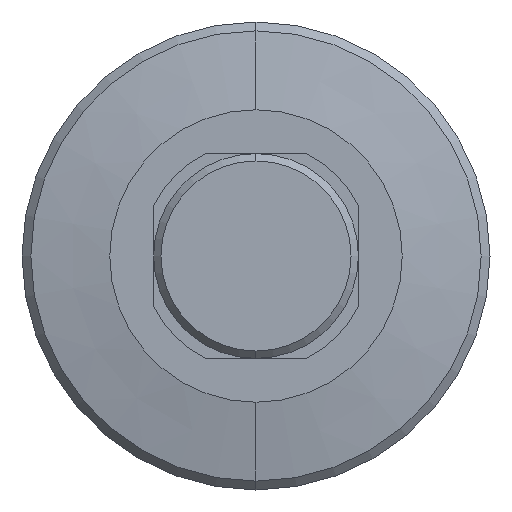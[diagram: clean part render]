
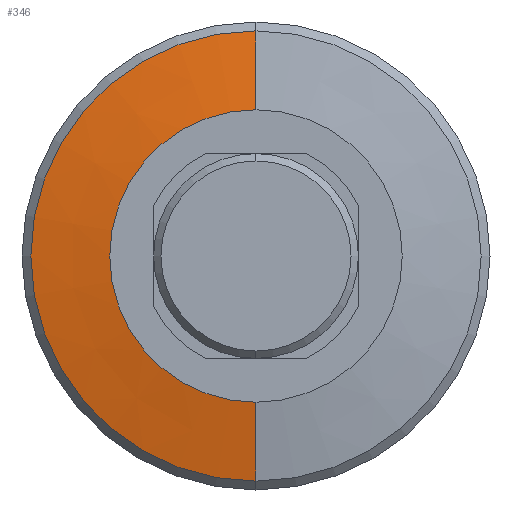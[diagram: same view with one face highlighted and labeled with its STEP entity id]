
A CAD part, left-side view. The second image highlights one B-rep face of the part: STEP entity #346.
In plain terms, the highlighted conical face has half-angle 80 degrees and reference radius 16 mm.
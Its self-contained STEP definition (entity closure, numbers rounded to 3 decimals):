
#6 = EDGE_CURVE ( 'NONE', #269, #641, #218, .T. ) ;
#26 = CARTESIAN_POINT ( 'NONE',  ( 30.058, 0., 16. ) ) ;
#44 = EDGE_CURVE ( 'NONE', #99, #521, #186, .T. ) ;
#75 = CARTESIAN_POINT ( 'NONE',  ( 30.058, 0., 0. ) ) ;
#98 = AXIS2_PLACEMENT_3D ( 'NONE', #866, #872, #880 ) ;
#99 = VERTEX_POINT ( 'NONE', #1080 ) ;
#109 = CARTESIAN_POINT ( 'NONE',  ( 29., 0., 0. ) ) ;
#116 = DIRECTION ( 'NONE',  ( -1., 0., 0. ) ) ;
#124 = DIRECTION ( 'NONE',  ( 0., 0., 1. ) ) ;
#186 = CIRCLE ( 'NONE', #98, 15.393 ) ;
#187 = DIRECTION ( 'NONE',  ( 1., 0., 0. ) ) ;
#216 = AXIS2_PLACEMENT_3D ( 'NONE', #75, #187, #1150 ) ;
#218 = CIRCLE ( 'NONE', #1073, 10. ) ;
#240 = CARTESIAN_POINT ( 'NONE',  ( 29., 0., -10. ) ) ;
#269 = VERTEX_POINT ( 'NONE', #727 ) ;
#305 = EDGE_LOOP ( 'NONE', ( #1059, #1320, #315, #981 ) ) ;
#315 = ORIENTED_EDGE ( 'NONE', *, *, #44, .T. ) ;
#336 = CARTESIAN_POINT ( 'NONE',  ( 29.951, 0., -15.393 ) ) ;
#346 = ADVANCED_FACE ( 'NONE', ( #1238 ), #1205, .T. ) ;
#379 = DIRECTION ( 'NONE',  ( 0.174, 0., -0.985 ) ) ;
#392 = VECTOR ( 'NONE', #379, 1000. ) ;
#521 = VERTEX_POINT ( 'NONE', #336 ) ;
#526 = LINE ( 'NONE', #26, #1035 ) ;
#641 = VERTEX_POINT ( 'NONE', #240 ) ;
#677 = EDGE_CURVE ( 'NONE', #269, #99, #526, .T. ) ;
#727 = CARTESIAN_POINT ( 'NONE',  ( 29., 0., 10. ) ) ;
#730 = EDGE_CURVE ( 'NONE', #641, #521, #1004, .T. ) ;
#866 = CARTESIAN_POINT ( 'NONE',  ( 29.951, 0., 0. ) ) ;
#872 = DIRECTION ( 'NONE',  ( -1., 0., 0. ) ) ;
#880 = DIRECTION ( 'NONE',  ( 0., 0., 1. ) ) ;
#981 = ORIENTED_EDGE ( 'NONE', *, *, #730, .F. ) ;
#1004 = LINE ( 'NONE', #1224, #392 ) ;
#1035 = VECTOR ( 'NONE', #1208, 1000. ) ;
#1059 = ORIENTED_EDGE ( 'NONE', *, *, #6, .F. ) ;
#1073 = AXIS2_PLACEMENT_3D ( 'NONE', #109, #116, #124 ) ;
#1080 = CARTESIAN_POINT ( 'NONE',  ( 29.951, 0., 15.393 ) ) ;
#1150 = DIRECTION ( 'NONE',  ( 0., 0., -1. ) ) ;
#1205 = CONICAL_SURFACE ( 'NONE', #216, 16., 1.396 ) ;
#1208 = DIRECTION ( 'NONE',  ( 0.174, 0., 0.985 ) ) ;
#1224 = CARTESIAN_POINT ( 'NONE',  ( 30.058, 0., -16. ) ) ;
#1238 = FACE_OUTER_BOUND ( 'NONE', #305, .T. ) ;
#1320 = ORIENTED_EDGE ( 'NONE', *, *, #677, .T. ) ;
